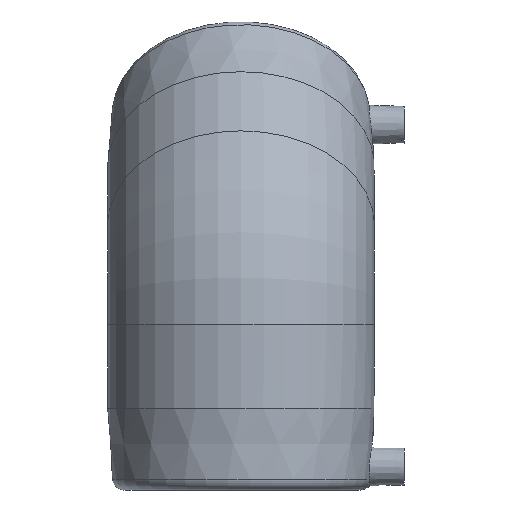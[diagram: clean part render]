
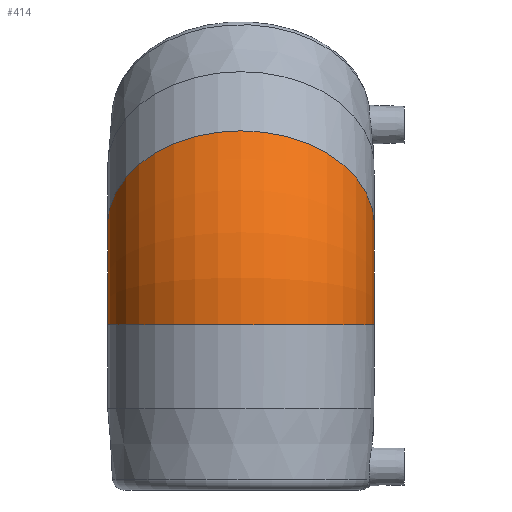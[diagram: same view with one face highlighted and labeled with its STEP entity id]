
A CAD part, left-side view. The second image highlights one B-rep face of the part: STEP entity #414.
In plain terms, the highlighted toroidal (fillet/blend) face has major radius 72.426 mm and minor radius 68.5 mm.
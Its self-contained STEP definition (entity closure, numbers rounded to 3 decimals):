
#23=TOROIDAL_SURFACE('',#483,72.426,68.5);
#110=ORIENTED_EDGE('',*,*,#178,.F.);
#111=ORIENTED_EDGE('',*,*,#177,.T.);
#177=EDGE_CURVE('',#220,#220,#248,.F.);
#178=EDGE_CURVE('',#221,#221,#249,.F.);
#220=VERTEX_POINT('',#798);
#221=VERTEX_POINT('',#801);
#248=CIRCLE('',#482,68.5);
#249=CIRCLE('',#484,68.5);
#299=EDGE_LOOP('',(#110));
#300=EDGE_LOOP('',(#111));
#360=FACE_BOUND('',#299,.T.);
#361=FACE_BOUND('',#300,.T.);
#414=ADVANCED_FACE('',(#360,#361),#23,.T.);
#482=AXIS2_PLACEMENT_3D('',#797,#590,#591);
#483=AXIS2_PLACEMENT_3D('',#799,#592,#593);
#484=AXIS2_PLACEMENT_3D('',#800,#594,#595);
#590=DIRECTION('',(0.,0.,-1.));
#591=DIRECTION('',(1.,0.,0.));
#592=DIRECTION('',(0.,1.,0.));
#593=DIRECTION('',(0.,0.,1.));
#594=DIRECTION('',(-0.707,0.,-0.707));
#595=DIRECTION('',(0.707,0.,-0.707));
#797=CARTESIAN_POINT('',(0.,0.,-30.));
#798=CARTESIAN_POINT('',(68.5,0.,-30.));
#799=CARTESIAN_POINT('',(72.426,0.,-30.));
#800=CARTESIAN_POINT('',(21.213,0.,21.213));
#801=CARTESIAN_POINT('',(69.65,0.,-27.224));
